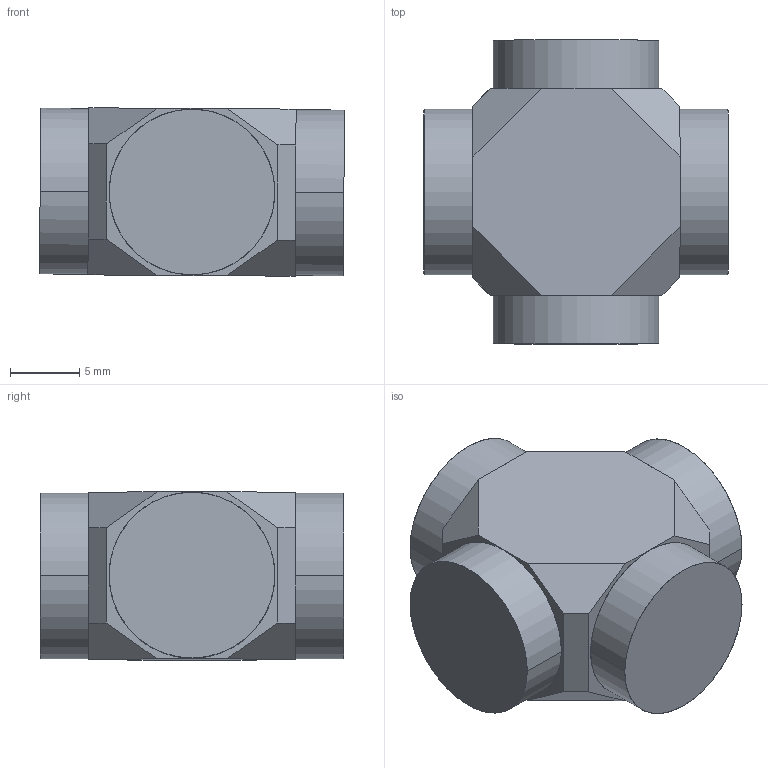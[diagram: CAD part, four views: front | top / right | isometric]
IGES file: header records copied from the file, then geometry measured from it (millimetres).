
Start section: SolidWorks IGES file using analytic representation for surfaces
Global section: file name: C:\Data\SAP_DOC_20200123_IRB390\Lättmodeller_IRB390\Final_4axis\IRB390_15kg_1300_STD_rev0_IGES_J\IRB390_X_1300_STD_4D_UC_00.IGS; native system: SolidWorks 2018; preprocessor: SolidWorks 2018; author: sestdan2; date: 200204.155126; units: millimetre
Bounding box: 22.07 x 22 x 12.19 mm (x, y, z)
Surface area: 1583.7 mm2 (no closed solid volume)
Topology: 0 solids, 0 shells, 30 faces, 384 edges, 384 vertices
Faces by surface type: bspline 22, revolution 8
